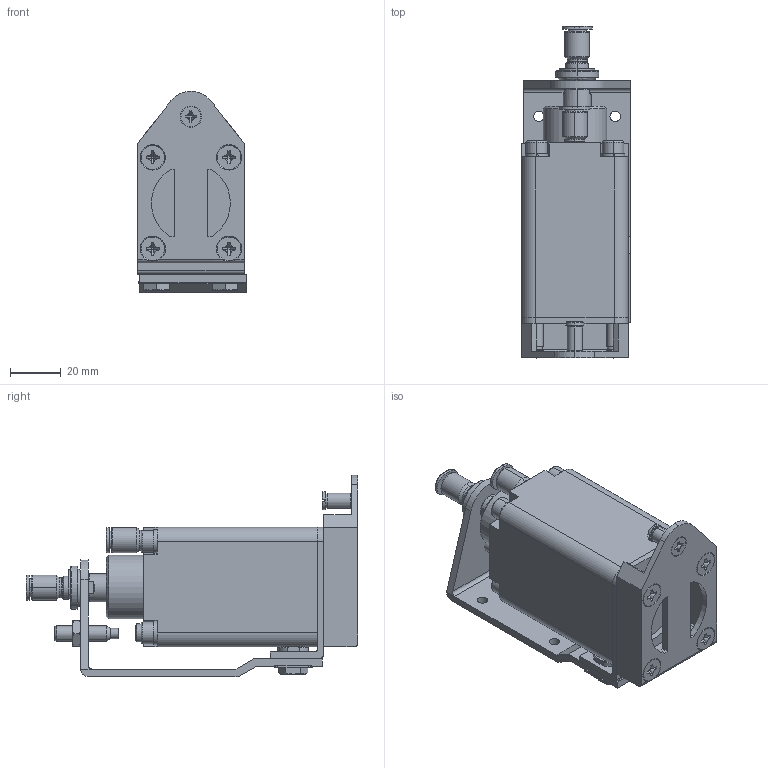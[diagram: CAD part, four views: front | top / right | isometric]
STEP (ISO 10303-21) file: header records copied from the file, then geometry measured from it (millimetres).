
FILE_DESCRIPTION (( 'STEP AP214' ), '1' );
FILE_NAME ('GT-NY25-6.STEP', '2019-11-26T09:22:55', ( '微软用户' ), ( '微软中国' ), 'SwSTEP 2.0', 'SolidWorks 2016', '' );
FILE_SCHEMA (( 'AUTOMOTIVE_DESIGN' ));
Length unit declared in the file: millimetre
Products named in the file (1): GT-NY25-6
Bounding box: 42.87 x 130.55 x 79.25 mm (x, y, z)
Surface area: 54169.7 mm2 (no closed solid volume)
Topology: 0 solids, 31 shells, 808 faces, 1997 edges, 1277 vertices
Faces by surface type: plane 352, cylinder 248, cone 115, bspline 93
Entity records: 38071 total; most frequent: CARTESIAN_POINT 10348, ORIENTED_EDGE 3965, DIRECTION 3671, EDGE_CURVE 1987, AXIS2_PLACEMENT_3D 1375, VERTEX_POINT 1277, LINE 921, VECTOR 921
